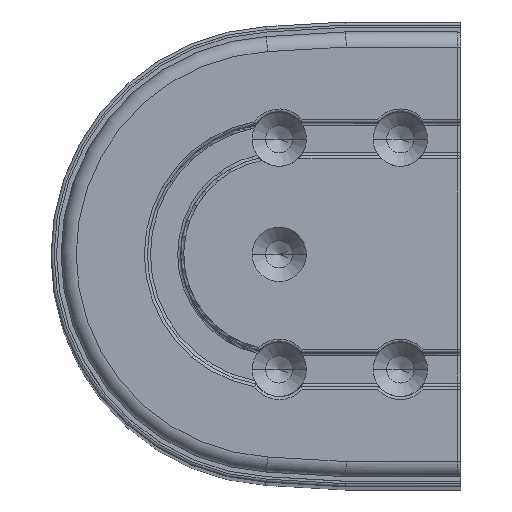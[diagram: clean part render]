
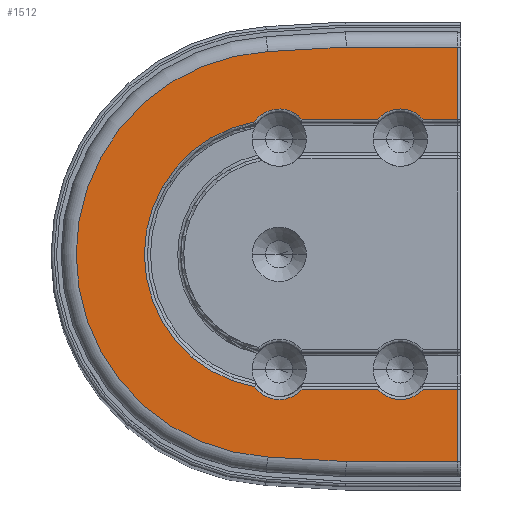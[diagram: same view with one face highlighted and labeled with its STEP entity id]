
A CAD part, top view. The second image highlights one B-rep face of the part: STEP entity #1512.
In plain terms, the highlighted planar face has unit normal (0, 0, 1).
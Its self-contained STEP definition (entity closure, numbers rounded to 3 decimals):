
#22 = DIRECTION ( 'NONE',  ( 1., 0., 0. ) ) ;
#27 = CARTESIAN_POINT ( 'NONE',  ( 59., 68.4, 323.5 ) ) ;
#64 = CARTESIAN_POINT ( 'NONE',  ( -3.892, -66.887, 323.5 ) ) ;
#67 = ORIENTED_EDGE ( 'NONE', *, *, #2823, .T. ) ;
#73 = CARTESIAN_POINT ( 'NONE',  ( -8.132, -43.751, 323.5 ) ) ;
#168 = EDGE_CURVE ( 'NONE', #8781, #7676, #6684, .T. ) ;
#331 = VECTOR ( 'NONE', #5413, 1000. ) ;
#410 = ORIENTED_EDGE ( 'NONE', *, *, #168, .T. ) ;
#442 = CARTESIAN_POINT ( 'NONE',  ( 59., -43.5, 323.5 ) ) ;
#465 = DIRECTION ( 'NONE',  ( 1., 0., 0. ) ) ;
#497 = VERTEX_POINT ( 'NONE', #5644 ) ;
#730 = VECTOR ( 'NONE', #4547, 1000. ) ;
#749 = VERTEX_POINT ( 'NONE', #5998 ) ;
#847 = VERTEX_POINT ( 'NONE', #64 ) ;
#876 = ORIENTED_EDGE ( 'NONE', *, *, #8436, .T. ) ;
#877 = VECTOR ( 'NONE', #7318, 1000. ) ;
#1116 = ORIENTED_EDGE ( 'NONE', *, *, #8641, .T. ) ;
#1193 = CARTESIAN_POINT ( 'NONE',  ( 59., 68.4, 323.5 ) ) ;
#1206 = CARTESIAN_POINT ( 'NONE',  ( 0., -44.5, 323.5 ) ) ;
#1230 = AXIS2_PLACEMENT_3D ( 'NONE', #4531, #2456, #7917 ) ;
#1278 = CIRCLE ( 'NONE', #3918, 9.96 ) ;
#1304 = DIRECTION ( 'NONE',  ( 0., 1., 0. ) ) ;
#1326 = AXIS2_PLACEMENT_3D ( 'NONE', #8796, #1989, #6729 ) ;
#1368 = LINE ( 'NONE', #4483, #730 ) ;
#1373 = CARTESIAN_POINT ( 'NONE',  ( -3.892, 66.887, 323.5 ) ) ;
#1385 = VERTEX_POINT ( 'NONE', #3289 ) ;
#1402 = VERTEX_POINT ( 'NONE', #3265 ) ;
#1512 = ADVANCED_FACE ( 'NONE', ( #4148 ), #6109, .T. ) ;
#1524 = CARTESIAN_POINT ( 'NONE',  ( 0., -38., 323.5 ) ) ;
#1602 = LINE ( 'NONE', #4113, #3444 ) ;
#1715 = VERTEX_POINT ( 'NONE', #2618 ) ;
#1762 = DIRECTION ( 'NONE',  ( 0., 0., -1. ) ) ;
#1787 = EDGE_CURVE ( 'NONE', #1385, #4409, #4730, .T. ) ;
#1806 = CIRCLE ( 'NONE', #2611, 44.5 ) ;
#1901 = CARTESIAN_POINT ( 'NONE',  ( -8.132, 43.751, 323.5 ) ) ;
#1936 = ORIENTED_EDGE ( 'NONE', *, *, #3050, .T. ) ;
#1989 = DIRECTION ( 'NONE',  ( 0., 0., 1. ) ) ;
#2015 = ORIENTED_EDGE ( 'NONE', *, *, #6083, .T. ) ;
#2050 = ORIENTED_EDGE ( 'NONE', *, *, #1787, .T. ) ;
#2181 = CARTESIAN_POINT ( 'NONE',  ( 32.453, -44.5, 323.5 ) ) ;
#2288 = EDGE_CURVE ( 'NONE', #2625, #1402, #4926, .T. ) ;
#2355 = VECTOR ( 'NONE', #7724, 1000. ) ;
#2415 = EDGE_CURVE ( 'NONE', #1715, #749, #4731, .T. ) ;
#2450 = CARTESIAN_POINT ( 'NONE',  ( 21.968, 68.4, 323.5 ) ) ;
#2451 = ORIENTED_EDGE ( 'NONE', *, *, #4953, .T. ) ;
#2456 = DIRECTION ( 'NONE',  ( 0., 0., -1. ) ) ;
#2585 = LINE ( 'NONE', #1373, #331 ) ;
#2611 = AXIS2_PLACEMENT_3D ( 'NONE', #5220, #7284, #7867 ) ;
#2618 = CARTESIAN_POINT ( 'NONE',  ( 59., -68.4, 323.5 ) ) ;
#2624 = AXIS2_PLACEMENT_3D ( 'NONE', #7188, #5159, #465 ) ;
#2625 = VERTEX_POINT ( 'NONE', #4092 ) ;
#2632 = VERTEX_POINT ( 'NONE', #1901 ) ;
#2761 = VERTEX_POINT ( 'NONE', #5592 ) ;
#2823 = EDGE_CURVE ( 'NONE', #7676, #5845, #4075, .T. ) ;
#2857 = ORIENTED_EDGE ( 'NONE', *, *, #6716, .T. ) ;
#2931 = DIRECTION ( 'NONE',  ( 1., 0., 0. ) ) ;
#2939 = CARTESIAN_POINT ( 'NONE',  ( 22.259, -68.408, 323.5 ) ) ;
#2951 = DIRECTION ( 'NONE',  ( 1., 0., 0. ) ) ;
#3050 = EDGE_CURVE ( 'NONE', #4409, #8463, #5320, .T. ) ;
#3265 = CARTESIAN_POINT ( 'NONE',  ( 47.547, 44.5, 323.5 ) ) ;
#3289 = CARTESIAN_POINT ( 'NONE',  ( 59., 44.5, 323.5 ) ) ;
#3292 = LINE ( 'NONE', #8361, #6157 ) ;
#3397 = ORIENTED_EDGE ( 'NONE', *, *, #7007, .T. ) ;
#3444 = VECTOR ( 'NONE', #22, 1000. ) ;
#3511 = VECTOR ( 'NONE', #7965, 1000. ) ;
#3774 = ORIENTED_EDGE ( 'NONE', *, *, #7866, .T. ) ;
#3792 = EDGE_CURVE ( 'NONE', #6436, #2625, #3292, .T. ) ;
#3888 = CARTESIAN_POINT ( 'NONE',  ( 22.114, 68.4, 323.5 ) ) ;
#3918 = AXIS2_PLACEMENT_3D ( 'NONE', #8459, #1762, #4422 ) ;
#4003 = CIRCLE ( 'NONE', #8149, 9.96 ) ;
#4055 = DIRECTION ( 'NONE',  ( 0., 0., -1. ) ) ;
#4075 = CIRCLE ( 'NONE', #7842, 9.96 ) ;
#4088 = DIRECTION ( 'NONE',  ( 1., 0., 0. ) ) ;
#4092 = CARTESIAN_POINT ( 'NONE',  ( 32.453, 44.5, 323.5 ) ) ;
#4113 = CARTESIAN_POINT ( 'NONE',  ( 60., -68.4, 323.5 ) ) ;
#4148 = FACE_OUTER_BOUND ( 'NONE', #6354, .T. ) ;
#4409 = VERTEX_POINT ( 'NONE', #27 ) ;
#4413 = CIRCLE ( 'NONE', #2624, 67. ) ;
#4422 = DIRECTION ( 'NONE',  ( 1., 0., 0. ) ) ;
#4483 = CARTESIAN_POINT ( 'NONE',  ( 0., 44.5, 323.5 ) ) ;
#4531 = CARTESIAN_POINT ( 'NONE',  ( 40., 38., 323.5 ) ) ;
#4547 = DIRECTION ( 'NONE',  ( 1., 0., 0. ) ) ;
#4567 = DIRECTION ( 'NONE',  ( 0., 1., 0. ) ) ;
#4730 = LINE ( 'NONE', #1193, #7172 ) ;
#4731 = LINE ( 'NONE', #442, #5462 ) ;
#4849 = LINE ( 'NONE', #1206, #877 ) ;
#4926 = CIRCLE ( 'NONE', #1230, 9.96 ) ;
#4953 = EDGE_CURVE ( 'NONE', #1402, #1385, #1368, .T. ) ;
#5159 = DIRECTION ( 'NONE',  ( 0., 0., 1. ) ) ;
#5220 = CARTESIAN_POINT ( 'NONE',  ( 0., 0., 323.5 ) ) ;
#5320 = LINE ( 'NONE', #2450, #3511 ) ;
#5381 = DIRECTION ( 'NONE',  ( -1., 0., 0. ) ) ;
#5413 = DIRECTION ( 'NONE',  ( -0.998, -0.058, 0. ) ) ;
#5462 = VECTOR ( 'NONE', #4567, 1000. ) ;
#5592 = CARTESIAN_POINT ( 'NONE',  ( -3.892, 66.887, 323.5 ) ) ;
#5619 = DIRECTION ( 'NONE',  ( 0., 0., -1. ) ) ;
#5637 = ORIENTED_EDGE ( 'NONE', *, *, #3792, .T. ) ;
#5644 = CARTESIAN_POINT ( 'NONE',  ( 47.547, -44.5, 323.5 ) ) ;
#5768 = EDGE_CURVE ( 'NONE', #8463, #2761, #2585, .T. ) ;
#5845 = VERTEX_POINT ( 'NONE', #73 ) ;
#5886 = EDGE_CURVE ( 'NONE', #5928, #1715, #1602, .T. ) ;
#5928 = VERTEX_POINT ( 'NONE', #8157 ) ;
#5998 = CARTESIAN_POINT ( 'NONE',  ( 59., -44.5, 323.5 ) ) ;
#6083 = EDGE_CURVE ( 'NONE', #847, #5928, #8026, .T. ) ;
#6109 = PLANE ( 'NONE',  #1326 ) ;
#6157 = VECTOR ( 'NONE', #2951, 1000. ) ;
#6354 = EDGE_LOOP ( 'NONE', ( #8024, #7459, #3774, #2857, #410, #67, #3397, #1116, #5637, #8564, #2451, #2050, #1936, #8758, #876, #2015 ) ) ;
#6420 = CARTESIAN_POINT ( 'NONE',  ( 7.547, -44.5, 323.5 ) ) ;
#6436 = VERTEX_POINT ( 'NONE', #6805 ) ;
#6665 = CARTESIAN_POINT ( 'NONE',  ( 0., -44.5, 323.5 ) ) ;
#6684 = LINE ( 'NONE', #6665, #7549 ) ;
#6716 = EDGE_CURVE ( 'NONE', #497, #8781, #1278, .T. ) ;
#6729 = DIRECTION ( 'NONE',  ( 1., 0., 0. ) ) ;
#6805 = CARTESIAN_POINT ( 'NONE',  ( 7.547, 44.5, 323.5 ) ) ;
#7007 = EDGE_CURVE ( 'NONE', #5845, #2632, #1806, .T. ) ;
#7172 = VECTOR ( 'NONE', #1304, 1000. ) ;
#7188 = CARTESIAN_POINT ( 'NONE',  ( 0., 0., 323.5 ) ) ;
#7284 = DIRECTION ( 'NONE',  ( 0., 0., -1. ) ) ;
#7318 = DIRECTION ( 'NONE',  ( -1., 0., 0. ) ) ;
#7459 = ORIENTED_EDGE ( 'NONE', *, *, #2415, .T. ) ;
#7549 = VECTOR ( 'NONE', #5381, 1000. ) ;
#7676 = VERTEX_POINT ( 'NONE', #6420 ) ;
#7724 = DIRECTION ( 'NONE',  ( 0.998, -0.058, 0. ) ) ;
#7842 = AXIS2_PLACEMENT_3D ( 'NONE', #1524, #5619, #2931 ) ;
#7866 = EDGE_CURVE ( 'NONE', #749, #497, #4849, .T. ) ;
#7867 = DIRECTION ( 'NONE',  ( 1., 0., 0. ) ) ;
#7917 = DIRECTION ( 'NONE',  ( 1., 0., 0. ) ) ;
#7965 = DIRECTION ( 'NONE',  ( -1., 0., 0. ) ) ;
#8024 = ORIENTED_EDGE ( 'NONE', *, *, #5886, .T. ) ;
#8026 = LINE ( 'NONE', #2939, #2355 ) ;
#8149 = AXIS2_PLACEMENT_3D ( 'NONE', #8770, #4055, #4088 ) ;
#8157 = CARTESIAN_POINT ( 'NONE',  ( 22.114, -68.4, 323.5 ) ) ;
#8361 = CARTESIAN_POINT ( 'NONE',  ( 0., 44.5, 323.5 ) ) ;
#8436 = EDGE_CURVE ( 'NONE', #2761, #847, #4413, .T. ) ;
#8459 = CARTESIAN_POINT ( 'NONE',  ( 40., -38., 323.5 ) ) ;
#8463 = VERTEX_POINT ( 'NONE', #3888 ) ;
#8564 = ORIENTED_EDGE ( 'NONE', *, *, #2288, .T. ) ;
#8641 = EDGE_CURVE ( 'NONE', #2632, #6436, #4003, .T. ) ;
#8758 = ORIENTED_EDGE ( 'NONE', *, *, #5768, .T. ) ;
#8770 = CARTESIAN_POINT ( 'NONE',  ( 0., 38., 323.5 ) ) ;
#8781 = VERTEX_POINT ( 'NONE', #2181 ) ;
#8796 = CARTESIAN_POINT ( 'NONE',  ( 0., 0., 323.5 ) ) ;
